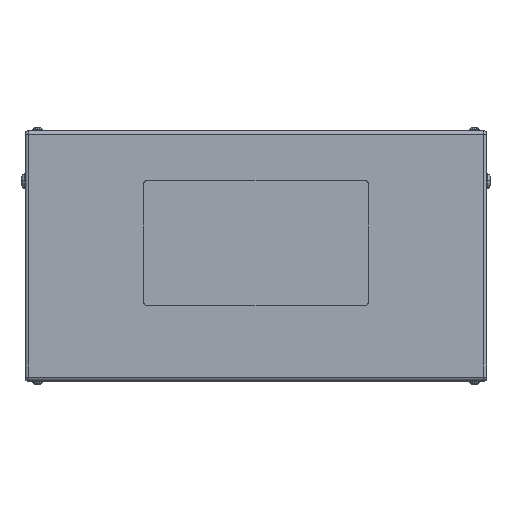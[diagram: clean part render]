
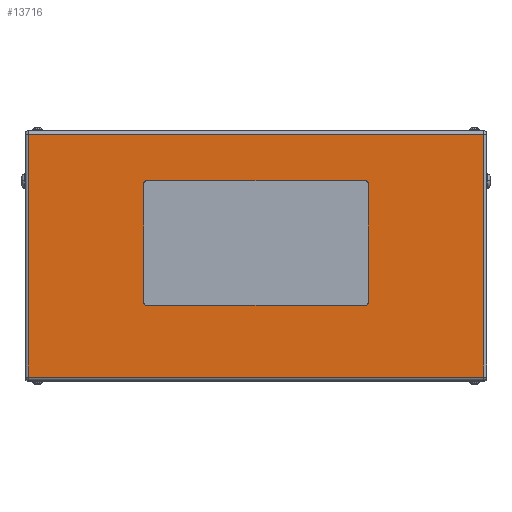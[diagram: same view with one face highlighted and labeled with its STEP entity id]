
A CAD part, top view. The second image highlights one B-rep face of the part: STEP entity #13716.
In plain terms, the highlighted planar face has unit normal (0, 0, 1).
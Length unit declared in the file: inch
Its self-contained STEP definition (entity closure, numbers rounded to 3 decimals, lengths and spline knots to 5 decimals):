
#374 = CARTESIAN_POINT ( 'NONE',  ( 18.234, 9.734, 20. ) ) ;
#391 = FACE_OUTER_BOUND ( 'NONE', #7452, .T. ) ;
#474 = ORIENTED_EDGE ( 'NONE', *, *, #12922, .T. ) ;
#495 = CARTESIAN_POINT ( 'NONE',  ( -8.75, -3.75, 20. ) ) ;
#557 = LINE ( 'NONE', #6920, #11731 ) ;
#851 = CARTESIAN_POINT ( 'NONE',  ( 8.75, -4., 20. ) ) ;
#985 = ORIENTED_EDGE ( 'NONE', *, *, #7359, .F. ) ;
#1129 = AXIS2_PLACEMENT_3D ( 'NONE', #18163, #3953, #5482 ) ;
#1195 = CARTESIAN_POINT ( 'NONE',  ( -8.75, 6., 20. ) ) ;
#1205 = EDGE_CURVE ( 'NONE', #7981, #8362, #16047, .T. ) ;
#1363 = AXIS2_PLACEMENT_3D ( 'NONE', #20309, #5815, #4258 ) ;
#1655 = VERTEX_POINT ( 'NONE', #4140 ) ;
#1929 = ORIENTED_EDGE ( 'NONE', *, *, #20781, .T. ) ;
#2623 = VERTEX_POINT ( 'NONE', #19336 ) ;
#2929 = DIRECTION ( 'NONE',  ( 1., 0., 0. ) ) ;
#3091 = DIRECTION ( 'NONE',  ( 0., 1., 0. ) ) ;
#3161 = CARTESIAN_POINT ( 'NONE',  ( 9., 5.75, 20. ) ) ;
#3318 = ORIENTED_EDGE ( 'NONE', *, *, #5991, .F. ) ;
#3385 = DIRECTION ( 'NONE',  ( 1., 0., 0. ) ) ;
#3527 = VECTOR ( 'NONE', #3091, 39.37008 ) ;
#3953 = DIRECTION ( 'NONE',  ( 0., 0., 1. ) ) ;
#4140 = CARTESIAN_POINT ( 'NONE',  ( -8.75, 6., 20. ) ) ;
#4258 = DIRECTION ( 'NONE',  ( 1., 0., 0. ) ) ;
#4306 = EDGE_CURVE ( 'NONE', #4973, #6125, #13912, .T. ) ;
#4458 = CIRCLE ( 'NONE', #1129, 0.25 ) ;
#4560 = ORIENTED_EDGE ( 'NONE', *, *, #17062, .F. ) ;
#4807 = CARTESIAN_POINT ( 'NONE',  ( -8.75, -4., 20. ) ) ;
#4973 = VERTEX_POINT ( 'NONE', #4807 ) ;
#5037 = AXIS2_PLACEMENT_3D ( 'NONE', #495, #16814, #6968 ) ;
#5043 = FACE_BOUND ( 'NONE', #11515, .T. ) ;
#5331 = DIRECTION ( 'NONE',  ( 0., -1., 0. ) ) ;
#5482 = DIRECTION ( 'NONE',  ( -1., 0., 0. ) ) ;
#5554 = AXIS2_PLACEMENT_3D ( 'NONE', #8349, #11531, #6539 ) ;
#5567 = CARTESIAN_POINT ( 'NONE',  ( 18.234, -9.734, 20. ) ) ;
#5815 = DIRECTION ( 'NONE',  ( 0., 0., 1. ) ) ;
#5991 = EDGE_CURVE ( 'NONE', #8362, #10740, #4458, .T. ) ;
#6125 = VERTEX_POINT ( 'NONE', #851 ) ;
#6224 = LINE ( 'NONE', #12467, #11056 ) ;
#6254 = ORIENTED_EDGE ( 'NONE', *, *, #1205, .F. ) ;
#6365 = CARTESIAN_POINT ( 'NONE',  ( -9., 5.75, 20. ) ) ;
#6539 = DIRECTION ( 'NONE',  ( -1., 0., 0. ) ) ;
#6645 = ORIENTED_EDGE ( 'NONE', *, *, #7780, .T. ) ;
#6693 = ORIENTED_EDGE ( 'NONE', *, *, #18069, .F. ) ;
#6726 = CARTESIAN_POINT ( 'NONE',  ( 18.234, -9.734, 20. ) ) ;
#6920 = CARTESIAN_POINT ( 'NONE',  ( -9., 5.75, 20. ) ) ;
#6968 = DIRECTION ( 'NONE',  ( 1., 0., 0. ) ) ;
#7359 = EDGE_CURVE ( 'NONE', #10740, #1655, #7479, .T. ) ;
#7452 = EDGE_LOOP ( 'NONE', ( #1929, #474, #17642, #6645 ) ) ;
#7479 = LINE ( 'NONE', #1195, #13020 ) ;
#7579 = DIRECTION ( 'NONE',  ( -1., 0., 0. ) ) ;
#7737 = LINE ( 'NONE', #10733, #12601 ) ;
#7780 = EDGE_CURVE ( 'NONE', #7881, #20405, #6224, .T. ) ;
#7881 = VERTEX_POINT ( 'NONE', #374 ) ;
#7981 = VERTEX_POINT ( 'NONE', #20184 ) ;
#8090 = CARTESIAN_POINT ( 'NONE',  ( -8.75, 5.75, 20. ) ) ;
#8349 = CARTESIAN_POINT ( 'NONE',  ( 18.5, 10., 20. ) ) ;
#8362 = VERTEX_POINT ( 'NONE', #3161 ) ;
#8443 = PLANE ( 'NONE',  #5554 ) ;
#8779 = CIRCLE ( 'NONE', #5037, 0.25 ) ;
#8960 = DIRECTION ( 'NONE',  ( 0., 1., 0. ) ) ;
#9040 = CARTESIAN_POINT ( 'NONE',  ( -18.234, 9.734, 20. ) ) ;
#9409 = DIRECTION ( 'NONE',  ( 0., -1., 0. ) ) ;
#9446 = VERTEX_POINT ( 'NONE', #6365 ) ;
#9502 = CARTESIAN_POINT ( 'NONE',  ( -9., -3.75, 20. ) ) ;
#9711 = CARTESIAN_POINT ( 'NONE',  ( 9., 5.75, 20. ) ) ;
#10088 = EDGE_CURVE ( 'NONE', #6125, #7981, #19877, .T. ) ;
#10733 = CARTESIAN_POINT ( 'NONE',  ( -18.234, 10., 20. ) ) ;
#10740 = VERTEX_POINT ( 'NONE', #12451 ) ;
#10909 = VECTOR ( 'NONE', #3385, 39.37008 ) ;
#11056 = VECTOR ( 'NONE', #15825, 39.37008 ) ;
#11515 = EDGE_LOOP ( 'NONE', ( #19718, #6693, #4560, #13801, #985, #3318, #6254, #19750 ) ) ;
#11531 = DIRECTION ( 'NONE',  ( 0., 0., -1. ) ) ;
#11731 = VECTOR ( 'NONE', #5331, 39.37008 ) ;
#12316 = CARTESIAN_POINT ( 'NONE',  ( -8.75, -4., 20. ) ) ;
#12451 = CARTESIAN_POINT ( 'NONE',  ( 8.75, 6., 20. ) ) ;
#12467 = CARTESIAN_POINT ( 'NONE',  ( 18.5, 9.734, 20. ) ) ;
#12601 = VECTOR ( 'NONE', #9409, 39.37008 ) ;
#12608 = VERTEX_POINT ( 'NONE', #5567 ) ;
#12922 = EDGE_CURVE ( 'NONE', #2623, #12608, #16327, .T. ) ;
#13020 = VECTOR ( 'NONE', #7579, 39.37008 ) ;
#13716 = ADVANCED_FACE ( 'NONE', ( #5043, #391 ), #8443, .F. ) ;
#13753 = CIRCLE ( 'NONE', #20173, 0.25 ) ;
#13801 = ORIENTED_EDGE ( 'NONE', *, *, #16920, .F. ) ;
#13912 = LINE ( 'NONE', #12316, #17135 ) ;
#14352 = DIRECTION ( 'NONE',  ( 0., 0., 1. ) ) ;
#14987 = CARTESIAN_POINT ( 'NONE',  ( 18.234, 10., 20. ) ) ;
#15230 = VECTOR ( 'NONE', #8960, 39.37008 ) ;
#15825 = DIRECTION ( 'NONE',  ( -1., 0., 0. ) ) ;
#16047 = LINE ( 'NONE', #9711, #3527 ) ;
#16327 = LINE ( 'NONE', #6726, #10909 ) ;
#16814 = DIRECTION ( 'NONE',  ( 0., 0., 1. ) ) ;
#16920 = EDGE_CURVE ( 'NONE', #1655, #9446, #13753, .T. ) ;
#17062 = EDGE_CURVE ( 'NONE', #9446, #17528, #557, .T. ) ;
#17135 = VECTOR ( 'NONE', #2929, 39.37008 ) ;
#17528 = VERTEX_POINT ( 'NONE', #9502 ) ;
#17642 = ORIENTED_EDGE ( 'NONE', *, *, #19610, .T. ) ;
#18069 = EDGE_CURVE ( 'NONE', #17528, #4973, #8779, .T. ) ;
#18163 = CARTESIAN_POINT ( 'NONE',  ( 8.75, 5.75, 20. ) ) ;
#18475 = LINE ( 'NONE', #14987, #15230 ) ;
#19336 = CARTESIAN_POINT ( 'NONE',  ( -18.234, -9.734, 20. ) ) ;
#19610 = EDGE_CURVE ( 'NONE', #12608, #7881, #18475, .T. ) ;
#19718 = ORIENTED_EDGE ( 'NONE', *, *, #4306, .F. ) ;
#19750 = ORIENTED_EDGE ( 'NONE', *, *, #10088, .F. ) ;
#19877 = CIRCLE ( 'NONE', #1363, 0.25 ) ;
#20173 = AXIS2_PLACEMENT_3D ( 'NONE', #8090, #14352, #20791 ) ;
#20184 = CARTESIAN_POINT ( 'NONE',  ( 9., -3.75, 20. ) ) ;
#20309 = CARTESIAN_POINT ( 'NONE',  ( 8.75, -3.75, 20. ) ) ;
#20405 = VERTEX_POINT ( 'NONE', #9040 ) ;
#20781 = EDGE_CURVE ( 'NONE', #20405, #2623, #7737, .T. ) ;
#20791 = DIRECTION ( 'NONE',  ( 1., 0., 0. ) ) ;
